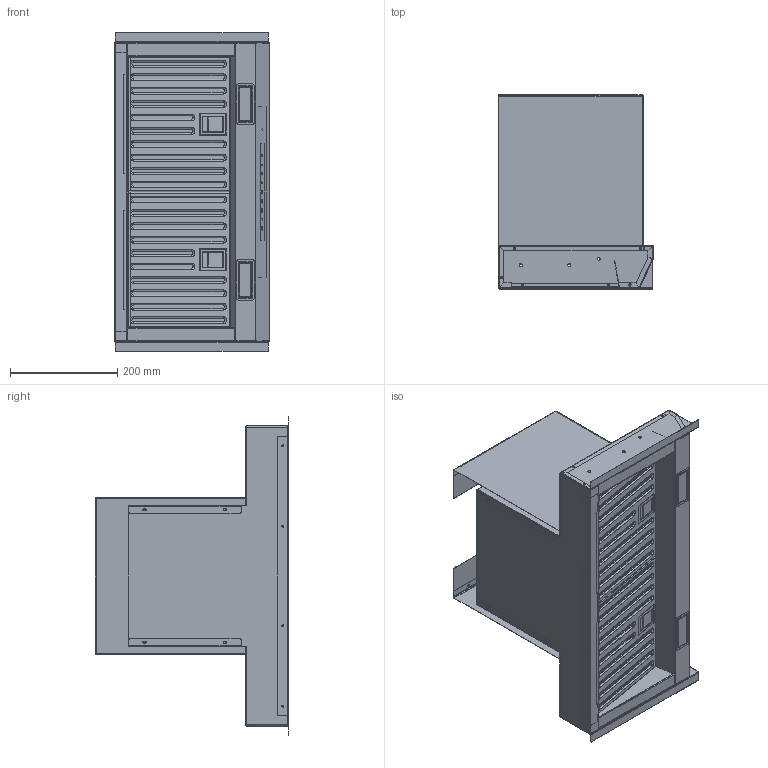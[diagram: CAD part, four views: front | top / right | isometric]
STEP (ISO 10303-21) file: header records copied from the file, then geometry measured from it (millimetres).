
FILE_DESCRIPTION (( 'STEP AP214' ), '1' );
FILE_NAME ('KSGT64X.STEP', '2025-10-16T07:04:22', ( '' ), ( '' ), 'SwSTEP 2.0', 'SolidWorks 2025', '' );
FILE_SCHEMA (( 'AUTOMOTIVE_DESIGN' ));
Length unit declared in the file: millimetre
Products named in the file (16): 2602758; 2602829; 1800047; TG02759; 2602828; 2610241; KSGT64X; 2600460; 2602882; 2610460; 9811470; 2602831; 2602826; 2602832; 1720595_vetro; 2602830
Assembly tree (17 placements, depth 3):
  KSGT64X
    2602826
    2602828
    2602829
    2600460
    2610460
    9811470
      2602830
      1720595_vetro
    2602758
    TG02759
    2602831
    2602832
    2602882
    1800047  x2
    2610241  x2
Bounding box: 289.5 x 361.2 x 594.8 mm (x, y, z)
Volume: 783837.8 mm3; surface area: 2270450.4 mm2
Topology: 18 solids, 18 shells, 8791 faces, 21267 edges, 13846 vertices
Faces by surface type: plane 7569, cylinder 888, torus 216, bspline 88, sphere 30
Entity records: 155308 total; most frequent: CARTESIAN_POINT 31669, ORIENTED_EDGE 25260, DIRECTION 24359, EDGE_CURVE 12630, VECTOR 10731, LINE 10731, VERTEX_POINT 8147, AXIS2_PLACEMENT_3D 6814
